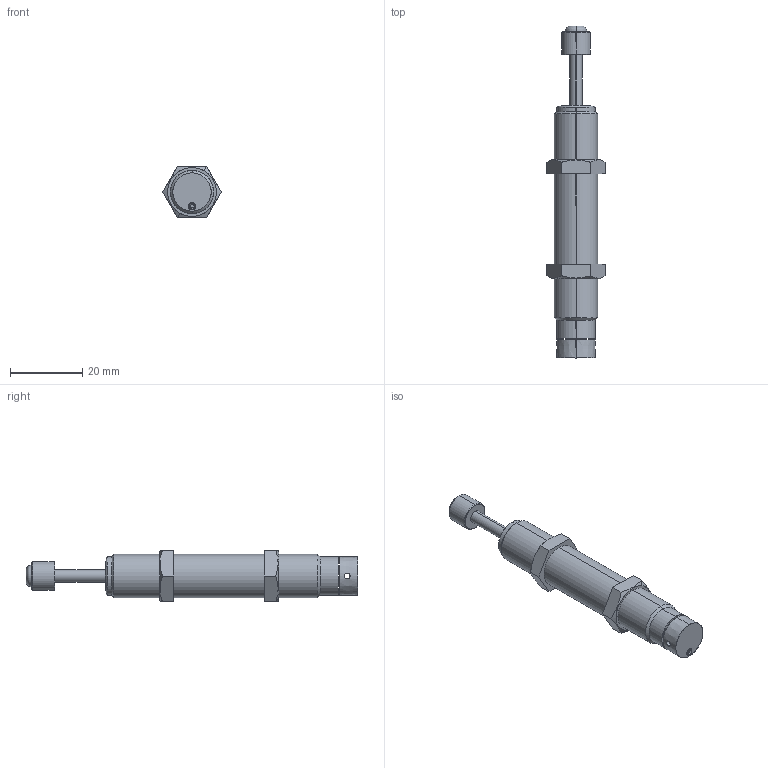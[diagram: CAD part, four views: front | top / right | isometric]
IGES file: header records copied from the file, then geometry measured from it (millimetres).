
Start section: SolidWorks IGES file using analytic representation for surfaces
Bounding box: 16.17 x 92 x 14 mm (x, y, z)
Surface area: 4331.4 mm2 (no closed solid volume)
Topology: 0 solids, 0 shells, 82 faces, 1210 edges, 1210 vertices
Faces by surface type: revolution 44, bspline 38
